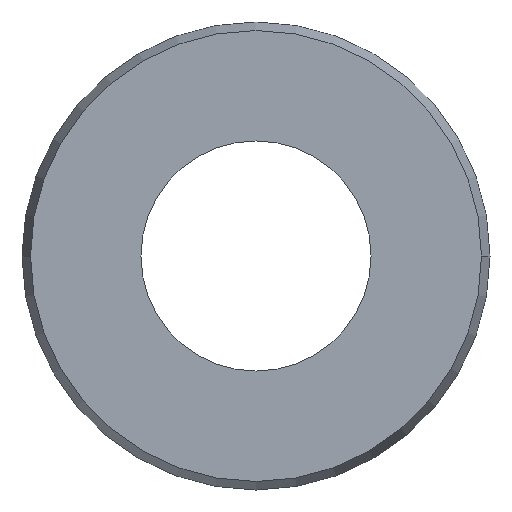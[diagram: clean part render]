
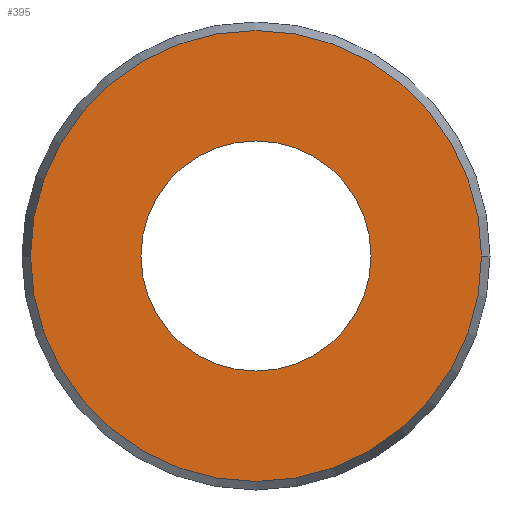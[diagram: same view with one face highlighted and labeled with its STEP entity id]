
A CAD part, left-side view. The second image highlights one B-rep face of the part: STEP entity #395.
In plain terms, the highlighted planar face has unit normal (-1, 0, 0).
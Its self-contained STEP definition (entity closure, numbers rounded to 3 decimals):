
#1=CARTESIAN_POINT('',(-3.,0.,0.));
#2=DIRECTION('',(1.,0.,0.));
#3=DIRECTION('',(0.,1.,0.));
#4=AXIS2_PLACEMENT_3D('',#1,#2,#3);
#14=CARTESIAN_POINT('',(-3.,0.,0.));
#15=DIRECTION('',(-1.,0.,0.));
#16=DIRECTION('',(0.,1.,0.));
#17=AXIS2_PLACEMENT_3D('',#14,#15,#16);
#117=CARTESIAN_POINT('',(-3.,0.,0.));
#118=DIRECTION('',(-1.,0.,0.));
#119=DIRECTION('',(0.,1.,0.));
#120=AXIS2_PLACEMENT_3D('',#117,#118,#119);
#122=CARTESIAN_POINT('',(-3.,0.,0.));
#123=DIRECTION('',(-1.,0.,0.));
#124=DIRECTION('',(0.,-1.,0.));
#125=AXIS2_PLACEMENT_3D('',#122,#123,#124);
#149=CARTESIAN_POINT('',(-3.,2.95,0.));
#151=VERTEX_POINT('',#149);
#157=CARTESIAN_POINT('',(-3.,-2.95,0.));
#159=VERTEX_POINT('',#157);
#181=CARTESIAN_POINT('',(-3.,5.782,0.));
#182=CARTESIAN_POINT('',(-3.,-5.782,0.));
#183=VERTEX_POINT('',#181);
#184=VERTEX_POINT('',#182);
#381=CARTESIAN_POINT('',(-3.,0.,0.));
#382=DIRECTION('',(1.,0.,0.));
#383=DIRECTION('',(0.,-1.,0.));
#384=AXIS2_PLACEMENT_3D('',#381,#382,#383);
#385=PLANE('',#384);
#387=ORIENTED_EDGE('',*,*,#386,.F.);
#388=ORIENTED_EDGE('',*,*,#371,.F.);
#389=EDGE_LOOP('',(#387,#388));
#390=FACE_OUTER_BOUND('',#389,.F.);
#391=ORIENTED_EDGE('',*,*,#196,.F.);
#392=ORIENTED_EDGE('',*,*,#214,.T.);
#393=EDGE_LOOP('',(#391,#392));
#394=FACE_BOUND('',#393,.F.);
#395=ADVANCED_FACE('',(#390,#394),#385,.F.);
#5=CIRCLE('',#4,2.95);
#18=CIRCLE('',#17,2.95);
#121=CIRCLE('',#120,5.782);
#126=CIRCLE('',#125,5.782);
#196=EDGE_CURVE('',#151,#159,#5,.T.);
#214=EDGE_CURVE('',#151,#159,#18,.T.);
#371=EDGE_CURVE('',#184,#183,#126,.T.);
#386=EDGE_CURVE('',#183,#184,#121,.T.);
